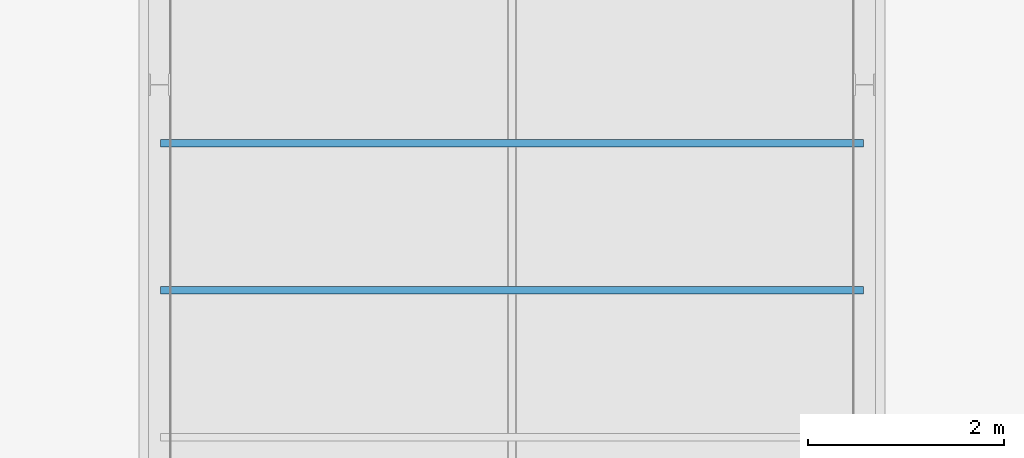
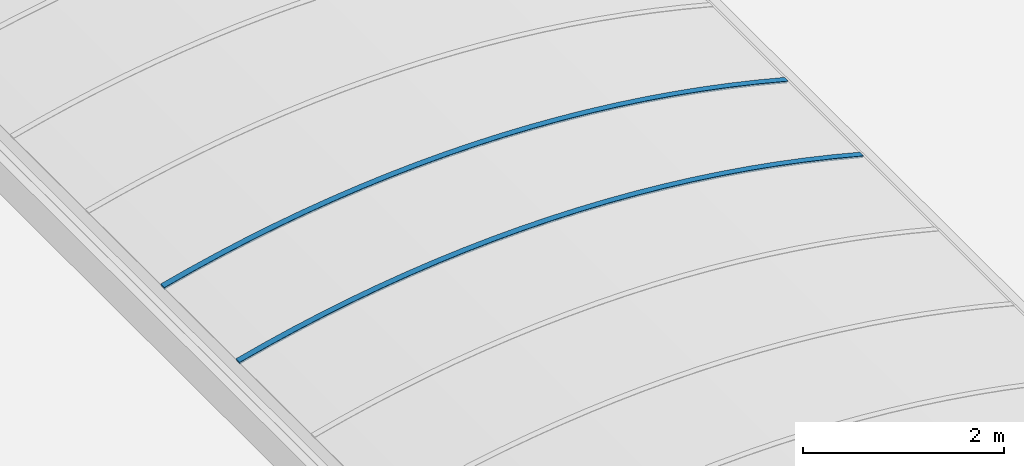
# One storey, part 42 of 81: 2 beams.
"""IFC2X3 building model written with IfcOpenShell, lengths in millimetres."""

from ifc_helpers import new_model, entity, si_unit, converted_unit, derived_unit, money_unit, direction, frame, origin_with_axes, place, context, subcontext, project, spatial, faceted_brep, material, material_list, type_object, element, save


model = new_model("IFC2X3")

# Units and contexts
model_context = context("Model", 3, precision=0.01, world=origin_with_axes(), true_north=direction((0.0, 1.0)))
body_context = subcontext(model_context, "Body", "Model", "MODEL_VIEW")
ifc_project = project(units=[si_unit("LENGTHUNIT", "METRE", prefix="MILLI"), si_unit("AREAUNIT", "SQUARE_METRE"), si_unit("VOLUMEUNIT", "CUBIC_METRE"), converted_unit("PLANEANGLEUNIT", "DEGREE", entity("IfcPlaneAngleMeasure", 0.0174532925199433), si_unit("PLANEANGLEUNIT", "RADIAN"), dimensions=[0, 0, 0, 0, 0, 0, 0]), money_unit("EUR"), converted_unit("TIMEUNIT", "Year", entity("IfcTimeMeasure", 31557600.0), si_unit("TIMEUNIT", "SECOND"), dimensions=[0, 0, 1, 0, 0, 0, 0]), si_unit("MASSUNIT", "GRAM", prefix="KILO"), si_unit("THERMODYNAMICTEMPERATUREUNIT", "DEGREE_CELSIUS"), si_unit("LUMINOUSINTENSITYUNIT", "LUMEN"), si_unit("ENERGYUNIT", "JOULE", prefix="MEGA"), derived_unit("THERMALCONDUCTANCEUNIT", [(si_unit("POWERUNIT", "WATT"), 1), (si_unit("LENGTHUNIT", "METRE"), -1), (si_unit("THERMODYNAMICTEMPERATUREUNIT", "KELVIN"), -1)]), derived_unit("SPECIFICHEATCAPACITYUNIT", [(si_unit("ENERGYUNIT", "JOULE"), 1), (si_unit("MASSUNIT", "GRAM", prefix="KILO"), -1), (si_unit("THERMODYNAMICTEMPERATUREUNIT", "KELVIN"), -1)]), derived_unit("MASSDENSITYUNIT", [(si_unit("MASSUNIT", "GRAM", prefix="KILO"), 1), (si_unit("VOLUMEUNIT", "CUBIC_METRE"), -1)])], contexts=[model_context])

# Site, building, storey
site_placement = place(None, origin_with_axes())
site = spatial("IfcSite", under=ifc_project, at=site_placement, Name="Site", CompositionType="ELEMENT")
building_placement = place(site_placement, origin_with_axes())
building = spatial("IfcBuilding", under=site, at=building_placement, Name="Naam gebouw", CompositionType="ELEMENT")
storey_placement = place(building_placement, frame((0.0, 0.0, 15320.0), z_axis=(0.0, 0.0, 1.0), x_axis=(1.0, 0.0, 0.0)))
storey = spatial("IfcBuildingStorey", under=building, at=storey_placement, Name="01 dak", CompositionType="ELEMENT", Elevation=15320.0)

# Beams
ifc_material = material(Name="Metaal - Aluminium AFW")
ifc_material_list = material_list([ifc_material, ifc_material])
beam_type = type_object("IfcBeamType", Name="lichtstraat polycarbonaat (constructie) 7420 x 670", PredefinedType="BEAM")
beam_1_placement = place(storey_placement, frame((46900.00000000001, 63862.50000000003, 559.9999999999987), z_axis=(0.0, 0.0, 1.0), x_axis=(1.0, 0.0, 0.0)))
element("IfcBeam", 1, at=beam_1_placement, inside=storey, type_object=beam_type, material=ifc_material_list, Name="Plafondafwerking 3", ObjectType="BEAM", context=body_context, shape_type="Brep", body=[
    faceted_brep([(-3532.999999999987, 0.0, 192.1385480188), (-3582.999999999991, 0.0, 179.000000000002), (-3582.999999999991, 75.00000000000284, 179.000000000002), (-3532.999999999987, 75.00000000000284, 192.1385480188), (-3264.746952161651, 0.0, 264.2761146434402), (-3584.237010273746, 0.0, 183.6724462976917), (-3527.999999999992, 0.0, 193.4415530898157), (-3213.322878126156, 0.0, 271.5053933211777), (-2896.922437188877, 0.0, 342.2614189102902), (-2578.968364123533, 0.0, 405.6716830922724), (-2259.631179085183, 0.0, 461.7021786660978), (-1939.082143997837, 0.0, 510.3228562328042), (-1617.493170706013, 0.0, 551.5076403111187), (-1295.036728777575, 0.0, 585.2344433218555), (-971.8857530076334, 0.0, 611.485177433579), (-648.2135506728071, 0.0, 630.2457642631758), (-324.1937085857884, 0.0, 641.5061424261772), (0.0, 0.0, 645.2602729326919), (324.1937085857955, 0.0, 641.5061424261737), (648.2135506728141, 0.0, 630.2457642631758), (971.8857530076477, 0.0, 611.4851774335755), (1295.036728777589, 0.0, 585.2344433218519), (1617.49317070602, 0.0, 551.5076403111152), (1939.082143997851, 0.0, 510.3228562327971), (2259.63117908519, 0.0, 461.7021786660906), (2578.968364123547, 0.0, 405.6716830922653), (2896.922437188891, 0.0, 342.2614189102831), (3213.322878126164, 0.0, 271.5053933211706), (3528.000000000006, 0.0, 193.4415530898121), (3528.000000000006, 0.0, 194.0000000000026), (3533.000000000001, 0.0, 194.0000000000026), (3533.000000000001, 0.0, 192.1385480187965), (3582.999999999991, 0.0, 179.000000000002), (3584.237010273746, 0.0, 183.6724462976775), (3264.746952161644, 0.0, 264.2761146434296), (2943.448443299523, 0.0, 337.3385317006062), (2620.519461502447, 0.0, 402.8192257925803), (2296.138887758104, 0.0, 460.6819250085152), (1970.486407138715, 0.0, 510.8945772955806), (1643.742409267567, 0.0, 553.4293682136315), (1316.087888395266, 0.0, 588.2627363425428), (987.7043431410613, 0.0, 615.3753863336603), (658.7736759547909, 0.0, 634.7522995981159), (329.4780923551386, 0.0, 646.3827426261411), (0.0, 0.0, 650.2602729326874), (-329.4780923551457, 0.0, 646.3827426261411), (-658.7736759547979, 0.0, 634.7522995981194), (-987.7043431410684, 0.0, 615.375386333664), (-1316.087888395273, 0.0, 588.2627363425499), (-1643.742409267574, 0.0, 553.4293682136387), (-1970.486407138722, 0.0, 510.8945772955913), (-2296.138887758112, 0.0, 460.6819250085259), (-2620.519461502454, 0.0, 402.8192257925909), (-2943.44844329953, 0.0, 337.3385317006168), (-3584.237010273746, 75.00000000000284, 183.6724462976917), (-3527.999999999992, 75.00000000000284, 193.4415530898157), (-3264.746952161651, 75.00000000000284, 264.2761146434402), (-2943.44844329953, 75.00000000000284, 337.3385317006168), (-2620.519461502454, 75.00000000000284, 402.8192257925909), (-2296.138887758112, 75.00000000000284, 460.6819250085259), (-1970.486407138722, 75.00000000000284, 510.8945772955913), (-1643.742409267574, 75.00000000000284, 553.4293682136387), (-1316.087888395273, 75.00000000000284, 588.2627363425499), (-987.7043431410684, 75.00000000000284, 615.375386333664), (-658.7736759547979, 75.00000000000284, 634.7522995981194), (-329.4780923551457, 75.00000000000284, 646.3827426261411), (0.0, 75.00000000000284, 650.2602729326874), (329.4780923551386, 75.00000000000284, 646.3827426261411), (658.7736759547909, 75.00000000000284, 634.7522995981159), (987.7043431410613, 75.00000000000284, 615.3753863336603), (1316.087888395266, 75.00000000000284, 588.2627363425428), (1643.742409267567, 75.00000000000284, 553.4293682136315), (1970.486407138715, 75.00000000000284, 510.8945772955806), (2296.138887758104, 75.00000000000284, 460.6819250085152), (2620.519461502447, 75.00000000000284, 402.8192257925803), (2943.448443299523, 75.00000000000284, 337.3385317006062), (3264.746952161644, 75.00000000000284, 264.2761146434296), (3584.237010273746, 75.00000000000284, 183.6724462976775), (3582.999999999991, 75.00000000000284, 179.000000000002), (3533.000000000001, 75.00000000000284, 192.1385480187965), (3533.000000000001, 75.00000000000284, 194.0000000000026), (3528.000000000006, 75.00000000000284, 194.0000000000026), (3528.000000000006, 75.00000000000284, 193.4415530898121), (3213.322878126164, 75.00000000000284, 271.5053933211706), (2896.922437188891, 75.00000000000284, 342.2614189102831), (2578.968364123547, 75.00000000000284, 405.6716830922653), (2259.63117908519, 75.00000000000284, 461.7021786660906), (1939.082143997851, 75.00000000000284, 510.3228562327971), (1617.49317070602, 75.00000000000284, 551.5076403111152), (1295.036728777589, 75.00000000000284, 585.2344433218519), (971.8857530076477, 75.00000000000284, 611.4851774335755), (648.2135506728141, 75.00000000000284, 630.2457642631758), (324.1937085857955, 75.00000000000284, 641.5061424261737), (0.0, 75.00000000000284, 645.2602729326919), (-324.1937085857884, 75.00000000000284, 641.5061424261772), (-648.2135506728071, 75.00000000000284, 630.2457642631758), (-971.8857530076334, 75.00000000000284, 611.485177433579), (-1295.036728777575, 75.00000000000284, 585.2344433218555), (-1617.493170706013, 75.00000000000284, 551.5076403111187), (-1939.082143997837, 75.00000000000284, 510.3228562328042), (-2259.631179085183, 75.00000000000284, 461.7021786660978), (-2578.968364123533, 75.00000000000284, 405.6716830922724), (-2896.922437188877, 75.00000000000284, 342.2614189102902), (-3213.322878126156, 75.00000000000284, 271.5053933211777)], [[[0, 1, 2, 3]], [[4, 5, 1, 0, 6, 7, 8, 9, 10, 11, 12, 13, 14, 15, 16, 17, 18, 19, 20, 21, 22, 23, 24, 25, 26, 27, 28, 29, 30, 31, 32, 33, 34, 35, 36, 37, 38, 39, 40, 41, 42, 43, 44, 45, 46, 47, 48, 49, 50, 51, 52, 53]], [[1, 5, 54, 2]], [[55, 3, 2, 54, 56, 57, 58, 59, 60, 61, 62, 63, 64, 65, 66, 67, 68, 69, 70, 71, 72, 73, 74, 75, 76, 77, 78, 79, 80, 81, 82, 83, 84, 85, 86, 87, 88, 89, 90, 91, 92, 93, 94, 95, 96, 97, 98, 99, 100, 101, 102, 103]], [[6, 0, 3, 55]], [[5, 4, 56, 54]], [[7, 6, 55, 103]], [[8, 7, 103, 102]], [[9, 8, 102, 101]], [[10, 9, 101, 100]], [[11, 10, 100, 99]], [[12, 11, 99, 98]], [[13, 12, 98, 97]], [[14, 13, 97, 96]], [[15, 14, 96, 95]], [[16, 15, 95, 94]], [[17, 16, 94, 93]], [[18, 17, 93, 92]], [[19, 18, 92, 91]], [[20, 19, 91, 90]], [[21, 20, 90, 89]], [[22, 21, 89, 88]], [[23, 22, 88, 87]], [[24, 23, 87, 86]], [[25, 24, 86, 85]], [[26, 25, 85, 84]], [[27, 26, 84, 83]], [[28, 27, 83, 82]], [[29, 28, 82, 81]], [[30, 29, 81, 80]], [[31, 30, 80, 79]], [[32, 31, 79, 78]], [[33, 32, 78, 77]], [[34, 33, 77, 76]], [[35, 34, 76, 75]], [[36, 35, 75, 74]], [[37, 36, 74, 73]], [[38, 37, 73, 72]], [[39, 38, 72, 71]], [[40, 39, 71, 70]], [[41, 40, 70, 69]], [[42, 41, 69, 68]], [[43, 42, 68, 67]], [[44, 43, 67, 66]], [[45, 44, 66, 65]], [[46, 45, 65, 64]], [[47, 46, 64, 63]], [[48, 47, 63, 62]], [[49, 48, 62, 61]], [[50, 49, 61, 60]], [[51, 50, 60, 59]], [[52, 51, 59, 58]], [[53, 52, 58, 57]], [[4, 53, 57, 56]]]),
    faceted_brep([(3269.271727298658, 75.00000000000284, 283.190243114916), (2947.542627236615, 75.00000000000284, 356.4574241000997), (2947.542627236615, 0.0, 356.4574241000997), (3269.271727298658, 0.0, 283.190243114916), (3589.18475202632, 75.00000000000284, 202.3611008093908), (3587.947861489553, 75.00000000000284, 197.6891067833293), (3528.000000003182, 75.00000000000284, 213.4415530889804), (3213.322878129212, 75.00000000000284, 291.505393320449), (2896.922437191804, 75.00000000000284, 362.2614189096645), (2578.968364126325, 75.00000000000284, 425.6716830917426), (2259.631179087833, 75.00000000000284, 481.7021786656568), (1939.082144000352, 75.00000000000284, 530.3228562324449), (1617.493170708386, 75.00000000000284, 571.5076403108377), (1295.036728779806, 75.00000000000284, 605.2344433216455), (971.8857530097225, 75.00000000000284, 631.4851774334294), (648.2135506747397, 75.00000000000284, 650.2457642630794), (324.1937085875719, 75.00000000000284, 661.5061424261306), (1.63424829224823e-09, 75.00000000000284, 665.2602729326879), (-324.1937085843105, 75.00000000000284, 661.5061424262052), (-648.2135506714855, 75.00000000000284, 650.2457642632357), (-971.8857530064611, 75.00000000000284, 631.4851774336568), (-1295.036728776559, 75.00000000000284, 605.2344433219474), (-1617.493170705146, 75.00000000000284, 571.5076403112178), (-1939.082143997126, 75.00000000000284, 530.3228562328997), (-2259.631179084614, 75.00000000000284, 481.7021786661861), (-2578.968364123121, 75.00000000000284, 425.6716830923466), (-2896.922437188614, 75.00000000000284, 362.2614189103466), (-3213.322878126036, 75.00000000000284, 291.5053933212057), (-3528.00000000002, 75.00000000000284, 213.4415530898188), (-3533.000000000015, 75.00000000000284, 212.1385480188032), (-3587.947861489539, 75.00000000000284, 197.6891067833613), (-3589.184752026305, 75.00000000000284, 202.3611008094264), (-3269.271727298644, 75.00000000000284, 283.1902431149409), (-2947.542627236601, 75.00000000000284, 356.4574241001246), (-2624.176171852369, 75.00000000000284, 422.1219439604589), (-2299.351990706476, 75.00000000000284, 480.1473261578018), (-1973.250523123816, 75.00000000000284, 530.5013376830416), (-1646.052917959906, 75.00000000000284, 573.156006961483), (-1317.940932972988, 75.00000000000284, 608.0876393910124), (-989.0968338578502, 75.00000000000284, 635.2768305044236), (-659.7032929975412, 75.00000000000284, 654.7084767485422), (-329.9432879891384, 75.00000000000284, 666.3717838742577), (0.0, 75.00000000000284, 670.2602729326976), (329.9432879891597, 75.00000000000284, 666.3717838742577), (659.7032929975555, 75.00000000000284, 654.7084767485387), (989.0968338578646, 75.00000000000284, 635.2768305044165), (1317.940932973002, 75.00000000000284, 608.0876393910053), (1646.052917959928, 75.00000000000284, 573.1560069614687), (1973.250523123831, 75.00000000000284, 530.5013376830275), (2299.351990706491, 75.00000000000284, 480.147326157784), (2624.176171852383, 75.00000000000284, 422.1219439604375), (2624.176171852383, 0.0, 422.1219439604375), (2299.351990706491, 0.0, 480.147326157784), (1973.250523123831, 0.0, 530.5013376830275), (1646.052917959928, 0.0, 573.1560069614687), (1317.940932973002, 0.0, 608.0876393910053), (989.0968338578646, 0.0, 635.2768305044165), (659.7032929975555, 0.0, 654.7084767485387), (329.9432879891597, 0.0, 666.3717838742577), (0.0, 0.0, 670.2602729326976), (-329.9432879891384, 0.0, 666.3717838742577), (-659.7032929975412, 0.0, 654.7084767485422), (-989.0968338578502, 0.0, 635.2768305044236), (-1317.940932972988, 0.0, 608.0876393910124), (-1646.052917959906, 0.0, 573.156006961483), (-1973.250523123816, 0.0, 530.5013376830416), (-2299.351990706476, 0.0, 480.1473261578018), (-2624.176171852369, 0.0, 422.1219439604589), (-2947.542627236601, 0.0, 356.4574241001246), (-3269.271727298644, 0.0, 283.1902431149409), (-3589.184752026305, 0.0, 202.3611008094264), (-3587.947861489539, 0.0, 197.6891067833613), (-3533.000000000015, 0.0, 212.1385480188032), (-3528.00000000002, 0.0, 213.4415530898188), (-3213.322878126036, 0.0, 291.5053933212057), (-2896.922437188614, 0.0, 362.2614189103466), (-2578.968364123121, 0.0, 425.6716830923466), (-2259.631179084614, 0.0, 481.7021786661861), (-1939.082143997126, 0.0, 530.3228562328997), (-1617.493170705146, 0.0, 571.5076403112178), (-1295.036728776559, 0.0, 605.2344433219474), (-971.8857530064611, 0.0, 631.4851774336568), (-648.2135506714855, 0.0, 650.2457642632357), (-324.1937085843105, 0.0, 661.5061424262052), (1.63424829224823e-09, 0.0, 665.2602729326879), (324.1937085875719, 0.0, 661.5061424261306), (648.2135506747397, 0.0, 650.2457642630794), (971.8857530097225, 0.0, 631.4851774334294), (1295.036728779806, 0.0, 605.2344433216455), (1617.493170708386, 0.0, 571.5076403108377), (1939.082144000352, 0.0, 530.3228562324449), (2259.631179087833, 0.0, 481.7021786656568), (2578.968364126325, 0.0, 425.6716830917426), (2896.922437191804, 0.0, 362.2614189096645), (3213.322878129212, 0.0, 291.505393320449), (3528.000000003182, 0.0, 213.4415530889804), (3587.947861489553, 0.0, 197.6891067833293), (3589.18475202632, 0.0, 202.3611008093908)], [[[0, 1, 2, 3]], [[0, 4, 5, 6, 7, 8, 9, 10, 11, 12, 13, 14, 15, 16, 17, 18, 19, 20, 21, 22, 23, 24, 25, 26, 27, 28, 29, 30, 31, 32, 33, 34, 35, 36, 37, 38, 39, 40, 41, 42, 43, 44, 45, 46, 47, 48, 49, 50, 1]], [[1, 50, 51, 2]], [[3, 2, 51, 52, 53, 54, 55, 56, 57, 58, 59, 60, 61, 62, 63, 64, 65, 66, 67, 68, 69, 70, 71, 72, 73, 74, 75, 76, 77, 78, 79, 80, 81, 82, 83, 84, 85, 86, 87, 88, 89, 90, 91, 92, 93, 94, 95, 96, 97]], [[4, 0, 3, 97]], [[5, 4, 97, 96]], [[6, 5, 96, 95]], [[7, 6, 95, 94]], [[8, 7, 94, 93]], [[9, 8, 93, 92]], [[10, 9, 92, 91]], [[11, 10, 91, 90]], [[12, 11, 90, 89]], [[13, 12, 89, 88]], [[14, 13, 88, 87]], [[15, 14, 87, 86]], [[16, 15, 86, 85]], [[17, 16, 85, 84]], [[18, 17, 84, 83]], [[19, 18, 83, 82]], [[20, 19, 82, 81]], [[21, 20, 81, 80]], [[22, 21, 80, 79]], [[23, 22, 79, 78]], [[24, 23, 78, 77]], [[25, 24, 77, 76]], [[26, 25, 76, 75]], [[27, 26, 75, 74]], [[28, 27, 74, 73]], [[29, 28, 73, 72]], [[30, 29, 72, 71]], [[31, 30, 71, 70]], [[32, 31, 70, 69]], [[33, 32, 69, 68]], [[34, 33, 68, 67]], [[35, 34, 67, 66]], [[36, 35, 66, 65]], [[37, 36, 65, 64]], [[38, 37, 64, 63]], [[39, 38, 63, 62]], [[40, 39, 62, 61]], [[41, 40, 61, 60]], [[42, 41, 60, 59]], [[43, 42, 59, 58]], [[44, 43, 58, 57]], [[45, 44, 57, 56]], [[46, 45, 56, 55]], [[47, 46, 55, 54]], [[48, 47, 54, 53]], [[49, 48, 53, 52]], [[50, 49, 52, 51]]]),
])
beam_2_placement = place(storey_placement, frame((46900.00000000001, 65362.50000000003, 559.9999999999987), z_axis=(0.0, 0.0, 1.0), x_axis=(1.0, 0.0, 0.0)))
element("IfcBeam", 2, at=beam_2_placement, inside=storey, type_object=beam_type, material=ifc_material_list, Name="Plafondafwerking 3", ObjectType="BEAM", context=body_context, shape_type="Brep", body=[
    faceted_brep([(-3532.999999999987, 0.0, 192.1385480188), (-3582.999999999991, 0.0, 179.000000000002), (-3582.999999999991, 75.00000000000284, 179.000000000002), (-3532.999999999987, 75.00000000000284, 192.1385480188), (-3264.746952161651, 0.0, 264.2761146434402), (-3584.237010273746, 0.0, 183.6724462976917), (-3527.999999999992, 0.0, 193.4415530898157), (-3213.322878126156, 0.0, 271.5053933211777), (-2896.922437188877, 0.0, 342.2614189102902), (-2578.968364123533, 0.0, 405.6716830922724), (-2259.631179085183, 0.0, 461.7021786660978), (-1939.082143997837, 0.0, 510.3228562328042), (-1617.493170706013, 0.0, 551.5076403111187), (-1295.036728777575, 0.0, 585.2344433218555), (-971.8857530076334, 0.0, 611.485177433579), (-648.2135506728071, 0.0, 630.2457642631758), (-324.1937085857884, 0.0, 641.5061424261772), (0.0, 0.0, 645.2602729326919), (324.1937085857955, 0.0, 641.5061424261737), (648.2135506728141, 0.0, 630.2457642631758), (971.8857530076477, 0.0, 611.4851774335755), (1295.036728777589, 0.0, 585.2344433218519), (1617.49317070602, 0.0, 551.5076403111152), (1939.082143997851, 0.0, 510.3228562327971), (2259.63117908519, 0.0, 461.7021786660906), (2578.968364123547, 0.0, 405.6716830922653), (2896.922437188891, 0.0, 342.2614189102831), (3213.322878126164, 0.0, 271.5053933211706), (3528.000000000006, 0.0, 193.4415530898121), (3528.000000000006, 0.0, 194.0000000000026), (3533.000000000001, 0.0, 194.0000000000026), (3533.000000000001, 0.0, 192.1385480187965), (3582.999999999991, 0.0, 179.000000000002), (3584.237010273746, 0.0, 183.6724462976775), (3264.746952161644, 0.0, 264.2761146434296), (2943.448443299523, 0.0, 337.3385317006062), (2620.519461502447, 0.0, 402.8192257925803), (2296.138887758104, 0.0, 460.6819250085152), (1970.486407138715, 0.0, 510.8945772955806), (1643.742409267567, 0.0, 553.4293682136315), (1316.087888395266, 0.0, 588.2627363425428), (987.7043431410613, 0.0, 615.3753863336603), (658.7736759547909, 0.0, 634.7522995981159), (329.4780923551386, 0.0, 646.3827426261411), (0.0, 0.0, 650.2602729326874), (-329.4780923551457, 0.0, 646.3827426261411), (-658.7736759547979, 0.0, 634.7522995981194), (-987.7043431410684, 0.0, 615.375386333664), (-1316.087888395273, 0.0, 588.2627363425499), (-1643.742409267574, 0.0, 553.4293682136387), (-1970.486407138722, 0.0, 510.8945772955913), (-2296.138887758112, 0.0, 460.6819250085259), (-2620.519461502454, 0.0, 402.8192257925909), (-2943.44844329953, 0.0, 337.3385317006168), (-3584.237010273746, 75.00000000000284, 183.6724462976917), (-3527.999999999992, 75.00000000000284, 193.4415530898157), (-3264.746952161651, 75.00000000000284, 264.2761146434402), (-2943.44844329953, 75.00000000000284, 337.3385317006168), (-2620.519461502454, 75.00000000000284, 402.8192257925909), (-2296.138887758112, 75.00000000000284, 460.6819250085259), (-1970.486407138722, 75.00000000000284, 510.8945772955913), (-1643.742409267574, 75.00000000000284, 553.4293682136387), (-1316.087888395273, 75.00000000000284, 588.2627363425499), (-987.7043431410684, 75.00000000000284, 615.375386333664), (-658.7736759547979, 75.00000000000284, 634.7522995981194), (-329.4780923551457, 75.00000000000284, 646.3827426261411), (0.0, 75.00000000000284, 650.2602729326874), (329.4780923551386, 75.00000000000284, 646.3827426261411), (658.7736759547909, 75.00000000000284, 634.7522995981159), (987.7043431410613, 75.00000000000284, 615.3753863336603), (1316.087888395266, 75.00000000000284, 588.2627363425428), (1643.742409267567, 75.00000000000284, 553.4293682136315), (1970.486407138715, 75.00000000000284, 510.8945772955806), (2296.138887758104, 75.00000000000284, 460.6819250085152), (2620.519461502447, 75.00000000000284, 402.8192257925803), (2943.448443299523, 75.00000000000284, 337.3385317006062), (3264.746952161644, 75.00000000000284, 264.2761146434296), (3584.237010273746, 75.00000000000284, 183.6724462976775), (3582.999999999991, 75.00000000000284, 179.000000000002), (3533.000000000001, 75.00000000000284, 192.1385480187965), (3533.000000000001, 75.00000000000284, 194.0000000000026), (3528.000000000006, 75.00000000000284, 194.0000000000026), (3528.000000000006, 75.00000000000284, 193.4415530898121), (3213.322878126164, 75.00000000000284, 271.5053933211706), (2896.922437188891, 75.00000000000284, 342.2614189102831), (2578.968364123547, 75.00000000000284, 405.6716830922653), (2259.63117908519, 75.00000000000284, 461.7021786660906), (1939.082143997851, 75.00000000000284, 510.3228562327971), (1617.49317070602, 75.00000000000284, 551.5076403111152), (1295.036728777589, 75.00000000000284, 585.2344433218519), (971.8857530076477, 75.00000000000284, 611.4851774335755), (648.2135506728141, 75.00000000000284, 630.2457642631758), (324.1937085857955, 75.00000000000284, 641.5061424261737), (0.0, 75.00000000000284, 645.2602729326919), (-324.1937085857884, 75.00000000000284, 641.5061424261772), (-648.2135506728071, 75.00000000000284, 630.2457642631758), (-971.8857530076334, 75.00000000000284, 611.485177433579), (-1295.036728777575, 75.00000000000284, 585.2344433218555), (-1617.493170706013, 75.00000000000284, 551.5076403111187), (-1939.082143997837, 75.00000000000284, 510.3228562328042), (-2259.631179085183, 75.00000000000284, 461.7021786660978), (-2578.968364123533, 75.00000000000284, 405.6716830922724), (-2896.922437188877, 75.00000000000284, 342.2614189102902), (-3213.322878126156, 75.00000000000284, 271.5053933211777)], [[[0, 1, 2, 3]], [[4, 5, 1, 0, 6, 7, 8, 9, 10, 11, 12, 13, 14, 15, 16, 17, 18, 19, 20, 21, 22, 23, 24, 25, 26, 27, 28, 29, 30, 31, 32, 33, 34, 35, 36, 37, 38, 39, 40, 41, 42, 43, 44, 45, 46, 47, 48, 49, 50, 51, 52, 53]], [[1, 5, 54, 2]], [[55, 3, 2, 54, 56, 57, 58, 59, 60, 61, 62, 63, 64, 65, 66, 67, 68, 69, 70, 71, 72, 73, 74, 75, 76, 77, 78, 79, 80, 81, 82, 83, 84, 85, 86, 87, 88, 89, 90, 91, 92, 93, 94, 95, 96, 97, 98, 99, 100, 101, 102, 103]], [[6, 0, 3, 55]], [[5, 4, 56, 54]], [[7, 6, 55, 103]], [[8, 7, 103, 102]], [[9, 8, 102, 101]], [[10, 9, 101, 100]], [[11, 10, 100, 99]], [[12, 11, 99, 98]], [[13, 12, 98, 97]], [[14, 13, 97, 96]], [[15, 14, 96, 95]], [[16, 15, 95, 94]], [[17, 16, 94, 93]], [[18, 17, 93, 92]], [[19, 18, 92, 91]], [[20, 19, 91, 90]], [[21, 20, 90, 89]], [[22, 21, 89, 88]], [[23, 22, 88, 87]], [[24, 23, 87, 86]], [[25, 24, 86, 85]], [[26, 25, 85, 84]], [[27, 26, 84, 83]], [[28, 27, 83, 82]], [[29, 28, 82, 81]], [[30, 29, 81, 80]], [[31, 30, 80, 79]], [[32, 31, 79, 78]], [[33, 32, 78, 77]], [[34, 33, 77, 76]], [[35, 34, 76, 75]], [[36, 35, 75, 74]], [[37, 36, 74, 73]], [[38, 37, 73, 72]], [[39, 38, 72, 71]], [[40, 39, 71, 70]], [[41, 40, 70, 69]], [[42, 41, 69, 68]], [[43, 42, 68, 67]], [[44, 43, 67, 66]], [[45, 44, 66, 65]], [[46, 45, 65, 64]], [[47, 46, 64, 63]], [[48, 47, 63, 62]], [[49, 48, 62, 61]], [[50, 49, 61, 60]], [[51, 50, 60, 59]], [[52, 51, 59, 58]], [[53, 52, 58, 57]], [[4, 53, 57, 56]]]),
    faceted_brep([(3269.271727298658, 75.00000000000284, 283.190243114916), (2947.542627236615, 75.00000000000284, 356.4574241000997), (2947.542627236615, 0.0, 356.4574241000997), (3269.271727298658, 0.0, 283.190243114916), (3589.18475202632, 75.00000000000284, 202.3611008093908), (3587.947861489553, 75.00000000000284, 197.6891067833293), (3528.000000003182, 75.00000000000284, 213.4415530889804), (3213.322878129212, 75.00000000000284, 291.505393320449), (2896.922437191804, 75.00000000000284, 362.2614189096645), (2578.968364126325, 75.00000000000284, 425.6716830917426), (2259.631179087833, 75.00000000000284, 481.7021786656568), (1939.082144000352, 75.00000000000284, 530.3228562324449), (1617.493170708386, 75.00000000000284, 571.5076403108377), (1295.036728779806, 75.00000000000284, 605.2344433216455), (971.8857530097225, 75.00000000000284, 631.4851774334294), (648.2135506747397, 75.00000000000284, 650.2457642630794), (324.1937085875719, 75.00000000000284, 661.5061424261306), (1.63424829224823e-09, 75.00000000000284, 665.2602729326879), (-324.1937085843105, 75.00000000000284, 661.5061424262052), (-648.2135506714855, 75.00000000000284, 650.2457642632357), (-971.8857530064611, 75.00000000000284, 631.4851774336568), (-1295.036728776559, 75.00000000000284, 605.2344433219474), (-1617.493170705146, 75.00000000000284, 571.5076403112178), (-1939.082143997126, 75.00000000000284, 530.3228562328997), (-2259.631179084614, 75.00000000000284, 481.7021786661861), (-2578.968364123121, 75.00000000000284, 425.6716830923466), (-2896.922437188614, 75.00000000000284, 362.2614189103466), (-3213.322878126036, 75.00000000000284, 291.5053933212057), (-3528.00000000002, 75.00000000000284, 213.4415530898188), (-3533.000000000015, 75.00000000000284, 212.1385480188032), (-3587.947861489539, 75.00000000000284, 197.6891067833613), (-3589.184752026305, 75.00000000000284, 202.3611008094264), (-3269.271727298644, 75.00000000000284, 283.1902431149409), (-2947.542627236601, 75.00000000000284, 356.4574241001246), (-2624.176171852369, 75.00000000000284, 422.1219439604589), (-2299.351990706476, 75.00000000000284, 480.1473261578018), (-1973.250523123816, 75.00000000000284, 530.5013376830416), (-1646.052917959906, 75.00000000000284, 573.156006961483), (-1317.940932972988, 75.00000000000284, 608.0876393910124), (-989.0968338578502, 75.00000000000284, 635.2768305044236), (-659.7032929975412, 75.00000000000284, 654.7084767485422), (-329.9432879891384, 75.00000000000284, 666.3717838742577), (0.0, 75.00000000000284, 670.2602729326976), (329.9432879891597, 75.00000000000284, 666.3717838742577), (659.7032929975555, 75.00000000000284, 654.7084767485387), (989.0968338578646, 75.00000000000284, 635.2768305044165), (1317.940932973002, 75.00000000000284, 608.0876393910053), (1646.052917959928, 75.00000000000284, 573.1560069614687), (1973.250523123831, 75.00000000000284, 530.5013376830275), (2299.351990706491, 75.00000000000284, 480.147326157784), (2624.176171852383, 75.00000000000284, 422.1219439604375), (2624.176171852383, 0.0, 422.1219439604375), (2299.351990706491, 0.0, 480.147326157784), (1973.250523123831, 0.0, 530.5013376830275), (1646.052917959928, 0.0, 573.1560069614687), (1317.940932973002, 0.0, 608.0876393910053), (989.0968338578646, 0.0, 635.2768305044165), (659.7032929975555, 0.0, 654.7084767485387), (329.9432879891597, 0.0, 666.3717838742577), (0.0, 0.0, 670.2602729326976), (-329.9432879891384, 0.0, 666.3717838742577), (-659.7032929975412, 0.0, 654.7084767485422), (-989.0968338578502, 0.0, 635.2768305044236), (-1317.940932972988, 0.0, 608.0876393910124), (-1646.052917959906, 0.0, 573.156006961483), (-1973.250523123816, 0.0, 530.5013376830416), (-2299.351990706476, 0.0, 480.1473261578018), (-2624.176171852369, 0.0, 422.1219439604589), (-2947.542627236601, 0.0, 356.4574241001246), (-3269.271727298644, 0.0, 283.1902431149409), (-3589.184752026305, 0.0, 202.3611008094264), (-3587.947861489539, 0.0, 197.6891067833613), (-3533.000000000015, 0.0, 212.1385480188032), (-3528.00000000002, 0.0, 213.4415530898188), (-3213.322878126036, 0.0, 291.5053933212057), (-2896.922437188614, 0.0, 362.2614189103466), (-2578.968364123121, 0.0, 425.6716830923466), (-2259.631179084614, 0.0, 481.7021786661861), (-1939.082143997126, 0.0, 530.3228562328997), (-1617.493170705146, 0.0, 571.5076403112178), (-1295.036728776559, 0.0, 605.2344433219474), (-971.8857530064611, 0.0, 631.4851774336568), (-648.2135506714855, 0.0, 650.2457642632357), (-324.1937085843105, 0.0, 661.5061424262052), (1.63424829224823e-09, 0.0, 665.2602729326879), (324.1937085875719, 0.0, 661.5061424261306), (648.2135506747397, 0.0, 650.2457642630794), (971.8857530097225, 0.0, 631.4851774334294), (1295.036728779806, 0.0, 605.2344433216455), (1617.493170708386, 0.0, 571.5076403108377), (1939.082144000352, 0.0, 530.3228562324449), (2259.631179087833, 0.0, 481.7021786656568), (2578.968364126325, 0.0, 425.6716830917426), (2896.922437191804, 0.0, 362.2614189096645), (3213.322878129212, 0.0, 291.505393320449), (3528.000000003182, 0.0, 213.4415530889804), (3587.947861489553, 0.0, 197.6891067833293), (3589.18475202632, 0.0, 202.3611008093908)], [[[0, 1, 2, 3]], [[0, 4, 5, 6, 7, 8, 9, 10, 11, 12, 13, 14, 15, 16, 17, 18, 19, 20, 21, 22, 23, 24, 25, 26, 27, 28, 29, 30, 31, 32, 33, 34, 35, 36, 37, 38, 39, 40, 41, 42, 43, 44, 45, 46, 47, 48, 49, 50, 1]], [[1, 50, 51, 2]], [[3, 2, 51, 52, 53, 54, 55, 56, 57, 58, 59, 60, 61, 62, 63, 64, 65, 66, 67, 68, 69, 70, 71, 72, 73, 74, 75, 76, 77, 78, 79, 80, 81, 82, 83, 84, 85, 86, 87, 88, 89, 90, 91, 92, 93, 94, 95, 96, 97]], [[4, 0, 3, 97]], [[5, 4, 97, 96]], [[6, 5, 96, 95]], [[7, 6, 95, 94]], [[8, 7, 94, 93]], [[9, 8, 93, 92]], [[10, 9, 92, 91]], [[11, 10, 91, 90]], [[12, 11, 90, 89]], [[13, 12, 89, 88]], [[14, 13, 88, 87]], [[15, 14, 87, 86]], [[16, 15, 86, 85]], [[17, 16, 85, 84]], [[18, 17, 84, 83]], [[19, 18, 83, 82]], [[20, 19, 82, 81]], [[21, 20, 81, 80]], [[22, 21, 80, 79]], [[23, 22, 79, 78]], [[24, 23, 78, 77]], [[25, 24, 77, 76]], [[26, 25, 76, 75]], [[27, 26, 75, 74]], [[28, 27, 74, 73]], [[29, 28, 73, 72]], [[30, 29, 72, 71]], [[31, 30, 71, 70]], [[32, 31, 70, 69]], [[33, 32, 69, 68]], [[34, 33, 68, 67]], [[35, 34, 67, 66]], [[36, 35, 66, 65]], [[37, 36, 65, 64]], [[38, 37, 64, 63]], [[39, 38, 63, 62]], [[40, 39, 62, 61]], [[41, 40, 61, 60]], [[42, 41, 60, 59]], [[43, 42, 59, 58]], [[44, 43, 58, 57]], [[45, 44, 57, 56]], [[46, 45, 56, 55]], [[47, 46, 55, 54]], [[48, 47, 54, 53]], [[49, 48, 53, 52]], [[50, 49, 52, 51]]]),
])

save(model, "model.ifc")
